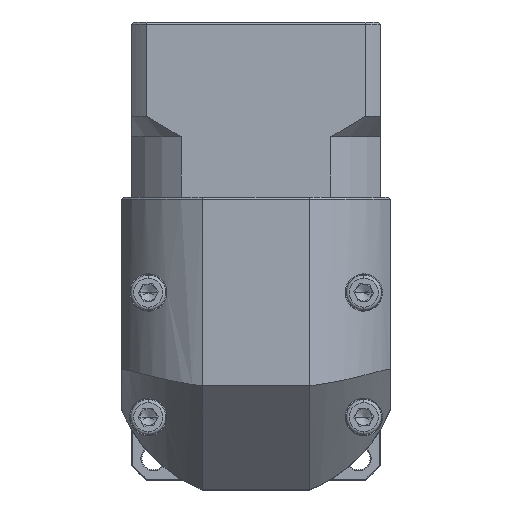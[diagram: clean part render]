
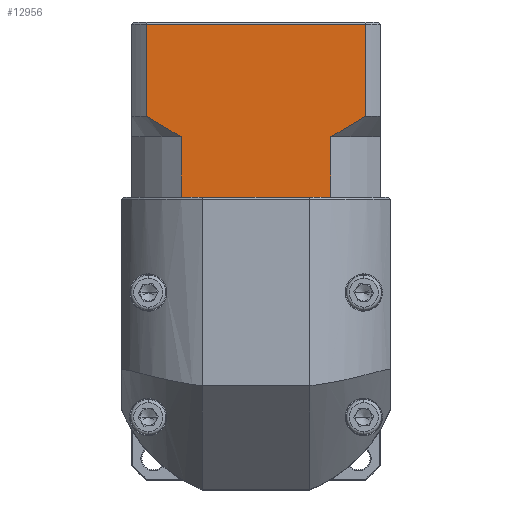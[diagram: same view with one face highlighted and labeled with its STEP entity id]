
A CAD part, top view. The second image highlights one B-rep face of the part: STEP entity #12956.
In plain terms, the highlighted planar face has unit normal (0, 0, 1).
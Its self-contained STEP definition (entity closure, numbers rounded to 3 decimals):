
#4546 = EDGE_CURVE ( 'NONE', #17197, #9295, #84278, .T. ) ;
#5061 = VERTEX_POINT ( 'NONE', #107405 ) ;
#6579 = ORIENTED_EDGE ( 'NONE', *, *, #71254, .T. ) ;
#7071 = CARTESIAN_POINT ( 'NONE',  ( -45.625, 59.274, 80.424 ) ) ;
#8704 = VERTEX_POINT ( 'NONE', #27656 ) ;
#9295 = VERTEX_POINT ( 'NONE', #7071 ) ;
#11182 = DIRECTION ( 'NONE',  ( 0., 1., 0. ) ) ;
#11551 = CARTESIAN_POINT ( 'NONE',  ( -92.994, 55.826, 80.424 ) ) ;
#12056 = FACE_OUTER_BOUND ( 'NONE', #92698, .T. ) ;
#12881 = CARTESIAN_POINT ( 'NONE',  ( -54.055, 54.274, 80.424 ) ) ;
#12956 = ADVANCED_FACE ( 'NONE', ( #12056 ), #17203, .F. ) ;
#13567 = EDGE_CURVE ( 'NONE', #17197, #5061, #51322, .T. ) ;
#17197 = VERTEX_POINT ( 'NONE', #42869 ) ;
#17203 = PLANE ( 'NONE',  #105467 ) ;
#17320 = CARTESIAN_POINT ( 'NONE',  ( -102.082, 39.774, 80.424 ) ) ;
#18067 = CARTESIAN_POINT ( 'NONE',  ( -52.598, 55.025, 80.424 ) ) ;
#18100 = LINE ( 'NONE', #65823, #110696 ) ;
#18787 = EDGE_CURVE ( 'NONE', #36587, #8704, #18100, .T. ) ;
#19375 = EDGE_CURVE ( 'NONE', #53688, #5061, #104984, .T. ) ;
#21054 = LINE ( 'NONE', #12881, #41551 ) ;
#24349 = VERTEX_POINT ( 'NONE', #42291 ) ;
#26357 = CARTESIAN_POINT ( 'NONE',  ( -54.055, 54.274, 80.424 ) ) ;
#27656 = CARTESIAN_POINT ( 'NONE',  ( -54.055, 39.774, 80.424 ) ) ;
#28085 = ORIENTED_EDGE ( 'NONE', *, *, #38853, .T. ) ;
#28194 = VECTOR ( 'NONE', #80166, 1000. ) ;
#31484 = ORIENTED_EDGE ( 'NONE', *, *, #18787, .T. ) ;
#35614 = CARTESIAN_POINT ( 'NONE',  ( -48.367, 57.499, 80.424 ) ) ;
#36587 = VERTEX_POINT ( 'NONE', #86567 ) ;
#38853 = EDGE_CURVE ( 'NONE', #39289, #9295, #41723, .T. ) ;
#39289 = VERTEX_POINT ( 'NONE', #26357 ) ;
#39536 = LINE ( 'NONE', #81528, #100716 ) ;
#41551 = VECTOR ( 'NONE', #98503, 1000. ) ;
#41723 = B_SPLINE_CURVE_WITH_KNOTS ( 'NONE', 3,
 ( #70185, #18067, #78170, #35614, #60715, #78551 ),
 .UNSPECIFIED., .F., .F.,
 ( 4, 2, 4 ),
 ( 0.1, 0.104, 0.109 ),
 .UNSPECIFIED. ) ;
#42291 = CARTESIAN_POINT ( 'NONE',  ( -90.11, 39.774, 80.424 ) ) ;
#42824 = EDGE_CURVE ( 'NONE', #39289, #8704, #21054, .T. ) ;
#42869 = CARTESIAN_POINT ( 'NONE',  ( -45.625, 81.474, 80.424 ) ) ;
#46586 = CARTESIAN_POINT ( 'NONE',  ( -90.11, 54.274, 80.424 ) ) ;
#46961 = CARTESIAN_POINT ( 'NONE',  ( -98.54, 59.274, 80.424 ) ) ;
#47447 = LINE ( 'NONE', #17320, #76027 ) ;
#50461 = EDGE_CURVE ( 'NONE', #24349, #99247, #39536, .T. ) ;
#51322 = LINE ( 'NONE', #62365, #28194 ) ;
#53673 = CARTESIAN_POINT ( 'NONE',  ( -102.082, 81.974, 80.424 ) ) ;
#53688 = VERTEX_POINT ( 'NONE', #55055 ) ;
#55055 = CARTESIAN_POINT ( 'NONE',  ( -98.54, 59.274, 80.424 ) ) ;
#57234 = ORIENTED_EDGE ( 'NONE', *, *, #50461, .F. ) ;
#58370 = EDGE_CURVE ( 'NONE', #53688, #99247, #87722, .T. ) ;
#60334 = ORIENTED_EDGE ( 'NONE', *, *, #94404, .T. ) ;
#60610 = CARTESIAN_POINT ( 'NONE',  ( -89.119, 39.774, 80.424 ) ) ;
#60715 = CARTESIAN_POINT ( 'NONE',  ( -46.988, 58.373, 80.424 ) ) ;
#62365 = CARTESIAN_POINT ( 'NONE',  ( -102.082, 81.474, 80.424 ) ) ;
#63724 = CARTESIAN_POINT ( 'NONE',  ( -95.801, 57.502, 80.424 ) ) ;
#65314 = CARTESIAN_POINT ( 'NONE',  ( -98.54, 54.274, 80.424 ) ) ;
#65823 = CARTESIAN_POINT ( 'NONE',  ( -102.082, 39.774, 80.424 ) ) ;
#68716 = ORIENTED_EDGE ( 'NONE', *, *, #19375, .F. ) ;
#70185 = CARTESIAN_POINT ( 'NONE',  ( -54.055, 54.274, 80.424 ) ) ;
#71254 = EDGE_CURVE ( 'NONE', #84054, #36587, #47447, .T. ) ;
#71530 = DIRECTION ( 'NONE',  ( 0., 0., -1. ) ) ;
#76027 = VECTOR ( 'NONE', #78148, 1000. ) ;
#78148 = DIRECTION ( 'NONE',  ( 1., 0., 0. ) ) ;
#78170 = CARTESIAN_POINT ( 'NONE',  ( -51.173, 55.825, 80.424 ) ) ;
#78551 = CARTESIAN_POINT ( 'NONE',  ( -45.625, 59.274, 80.424 ) ) ;
#79551 = DIRECTION ( 'NONE',  ( 1., 0., 0. ) ) ;
#80166 = DIRECTION ( 'NONE',  ( -1., 0., 0. ) ) ;
#81045 = ORIENTED_EDGE ( 'NONE', *, *, #42824, .F. ) ;
#81528 = CARTESIAN_POINT ( 'NONE',  ( -90.11, 54.274, 80.424 ) ) ;
#81636 = CARTESIAN_POINT ( 'NONE',  ( -90.11, 54.274, 80.424 ) ) ;
#82796 = DIRECTION ( 'NONE',  ( 0., -1., 0. ) ) ;
#84054 = VERTEX_POINT ( 'NONE', #60610 ) ;
#84278 = LINE ( 'NONE', #107960, #92487 ) ;
#86567 = CARTESIAN_POINT ( 'NONE',  ( -55.046, 39.774, 80.424 ) ) ;
#87722 = B_SPLINE_CURVE_WITH_KNOTS ( 'NONE', 3,
 ( #46961, #107066, #63724, #11551, #98670, #46586 ),
 .UNSPECIFIED., .F., .F.,
 ( 4, 2, 4 ),
 ( 0.052, 0.057, 0.062 ),
 .UNSPECIFIED. ) ;
#87992 = CARTESIAN_POINT ( 'NONE',  ( -102.082, 39.774, 80.424 ) ) ;
#90676 = ORIENTED_EDGE ( 'NONE', *, *, #4546, .F. ) ;
#92487 = VECTOR ( 'NONE', #82796, 1000. ) ;
#92698 = EDGE_LOOP ( 'NONE', ( #90676, #98301, #68716, #109451, #57234, #60334, #6579, #31484, #81045, #28085 ) ) ;
#92752 = VECTOR ( 'NONE', #99586, 1000. ) ;
#94404 = EDGE_CURVE ( 'NONE', #24349, #84054, #111875, .T. ) ;
#98301 = ORIENTED_EDGE ( 'NONE', *, *, #13567, .T. ) ;
#98503 = DIRECTION ( 'NONE',  ( 0., -1., 0. ) ) ;
#98670 = CARTESIAN_POINT ( 'NONE',  ( -91.562, 55.022, 80.424 ) ) ;
#99247 = VERTEX_POINT ( 'NONE', #81636 ) ;
#99586 = DIRECTION ( 'NONE',  ( 0., 1., 0. ) ) ;
#100716 = VECTOR ( 'NONE', #11182, 1000. ) ;
#102303 = VECTOR ( 'NONE', #79551, 1000. ) ;
#104984 = LINE ( 'NONE', #65314, #92752 ) ;
#105014 = DIRECTION ( 'NONE',  ( 0., 1., 0. ) ) ;
#105467 = AXIS2_PLACEMENT_3D ( 'NONE', #53673, #71530, #105014 ) ;
#107066 = CARTESIAN_POINT ( 'NONE',  ( -97.18, 58.375, 80.424 ) ) ;
#107405 = CARTESIAN_POINT ( 'NONE',  ( -98.54, 81.474, 80.424 ) ) ;
#107960 = CARTESIAN_POINT ( 'NONE',  ( -45.625, 54.274, 80.424 ) ) ;
#109451 = ORIENTED_EDGE ( 'NONE', *, *, #58370, .T. ) ;
#110008 = DIRECTION ( 'NONE',  ( 1., 0., 0. ) ) ;
#110696 = VECTOR ( 'NONE', #110008, 1000. ) ;
#111875 = LINE ( 'NONE', #87992, #102303 ) ;
